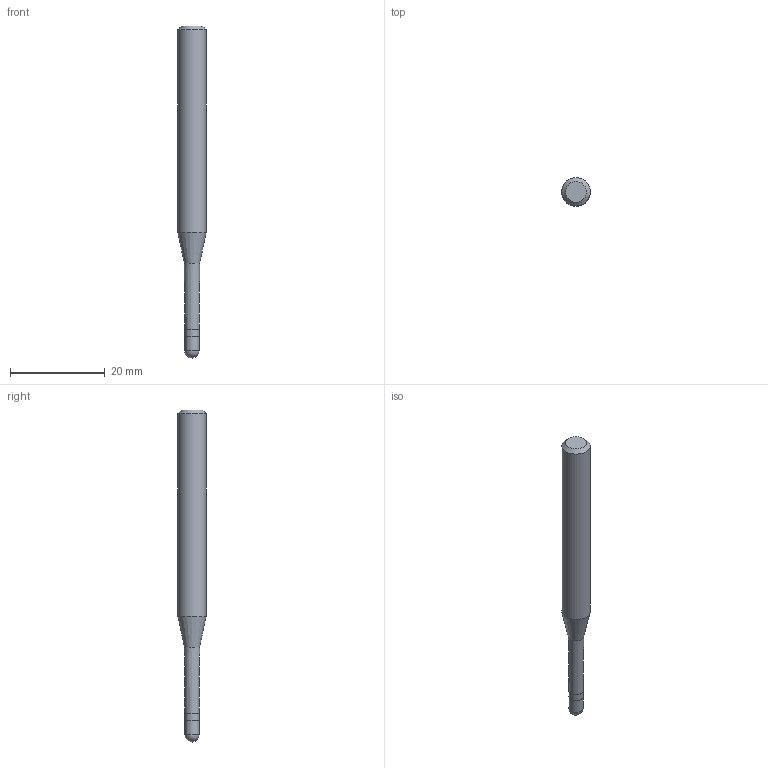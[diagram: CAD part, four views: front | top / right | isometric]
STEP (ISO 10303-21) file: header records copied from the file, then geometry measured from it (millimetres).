
FILE_DESCRIPTION((''),'2;1');
FILE_NAME('C:\Users\nsx150\AppData\Local\Temp\Mastercam 2021\E0ENTZRV18\TEMP.step','2021-09-02T09:57:10',(''),(''),'STEP Write','Mastercam 2021 ... CNC Software, Inc.','');
FILE_SCHEMA(('AUTOMOTIVE_DESIGN'));
Length unit declared in the file: millimetre
Products named in the file (1): None
Bounding box: 6 x 6 x 70 mm (x, y, z)
Volume: 1481.9 mm3; surface area: 1142.3 mm2
Topology: 2 solids, 2 shells, 10 faces, 16 edges, 9 vertices
Faces by surface type: plane 3, cylinder 3, cone 3, sphere 1
Full cylindrical faces by diameter (mm): 2.98 x1, 3 x1, 6 x1
Entity records: 232 total; most frequent: DIRECTION 40, CARTESIAN_POINT 28, AXIS2_PLACEMENT_3D 20, ORIENTED_EDGE 16, EDGE_LOOP 16, STYLED_ITEM 13, ADVANCED_FACE 10, FACE_BOUND 9
